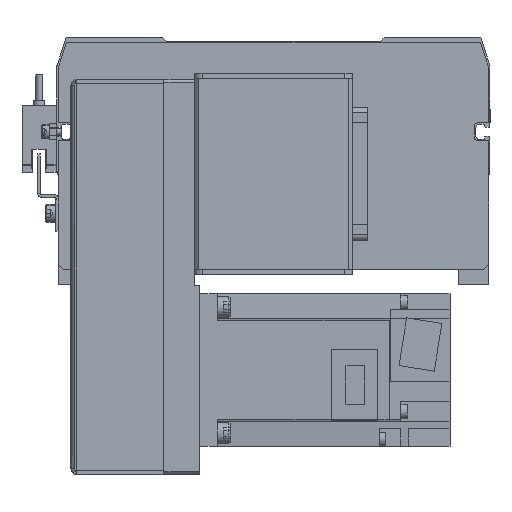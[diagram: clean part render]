
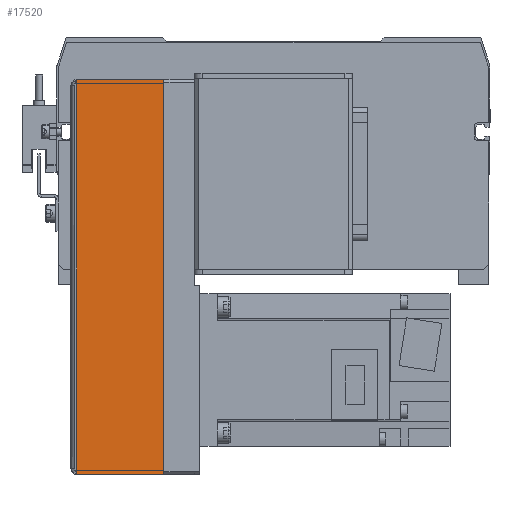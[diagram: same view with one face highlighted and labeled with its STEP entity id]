
A CAD part, front view. The second image highlights one B-rep face of the part: STEP entity #17520.
In plain terms, the highlighted planar face has unit normal (0, -1, 0) as drawn and (0, 1, 0) by its records, which use the part's own axes.
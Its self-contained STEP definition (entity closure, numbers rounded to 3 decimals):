
#320 = EDGE_CURVE ( 'NONE', #2009, #9775, #31977, .T. ) ;
#2009 = VERTEX_POINT ( 'NONE', #6453 ) ;
#2014 = ORIENTED_EDGE ( 'NONE', *, *, #17323, .F. ) ;
#3886 = CARTESIAN_POINT ( 'NONE',  ( 35., 59.837, -134.327 ) ) ;
#4024 = DIRECTION ( 'NONE',  ( 0., 0., 1. ) ) ;
#6453 = CARTESIAN_POINT ( 'NONE',  ( 0.737, 59.837, 20.673 ) ) ;
#7318 = DIRECTION ( 'NONE',  ( 0., 0., -1. ) ) ;
#7411 = EDGE_CURVE ( 'NONE', #23824, #9775, #14295, .T. ) ;
#8112 = VECTOR ( 'NONE', #36345, 1000. ) ;
#8495 = VECTOR ( 'NONE', #7318, 1000. ) ;
#9275 = ORIENTED_EDGE ( 'NONE', *, *, #29258, .F. ) ;
#9422 = ORIENTED_EDGE ( 'NONE', *, *, #320, .T. ) ;
#9775 = VERTEX_POINT ( 'NONE', #12246 ) ;
#11490 = FACE_OUTER_BOUND ( 'NONE', #12998, .T. ) ;
#12246 = CARTESIAN_POINT ( 'NONE',  ( 35., 59.837, 20.673 ) ) ;
#12998 = EDGE_LOOP ( 'NONE', ( #2014, #9422, #40772, #9275 ) ) ;
#14295 = LINE ( 'NONE', #3886, #27200 ) ;
#14467 = CARTESIAN_POINT ( 'NONE',  ( 0.737, 59.837, -134.327 ) ) ;
#14571 = DIRECTION ( 'NONE',  ( 0., -1., 0. ) ) ;
#15121 = VECTOR ( 'NONE', #24756, 1000. ) ;
#15709 = AXIS2_PLACEMENT_3D ( 'NONE', #36998, #14571, #39747 ) ;
#17323 = EDGE_CURVE ( 'NONE', #2009, #31495, #17872, .T. ) ;
#17520 = ADVANCED_FACE ( 'NONE', ( #11490 ), #17627, .F. ) ;
#17576 = CARTESIAN_POINT ( 'NONE',  ( 35., 59.837, -134.327 ) ) ;
#17627 = PLANE ( 'NONE',  #15709 ) ;
#17819 = CARTESIAN_POINT ( 'NONE',  ( 0.737, 59.837, 20.673 ) ) ;
#17872 = LINE ( 'NONE', #32047, #8495 ) ;
#23824 = VERTEX_POINT ( 'NONE', #17576 ) ;
#24756 = DIRECTION ( 'NONE',  ( 1., 0., 0. ) ) ;
#27200 = VECTOR ( 'NONE', #4024, 1000. ) ;
#27840 = CARTESIAN_POINT ( 'NONE',  ( 0.737, 59.837, -134.327 ) ) ;
#29258 = EDGE_CURVE ( 'NONE', #31495, #23824, #31880, .T. ) ;
#31495 = VERTEX_POINT ( 'NONE', #27840 ) ;
#31880 = LINE ( 'NONE', #14467, #8112 ) ;
#31977 = LINE ( 'NONE', #17819, #15121 ) ;
#32047 = CARTESIAN_POINT ( 'NONE',  ( 0.737, 59.837, -134.327 ) ) ;
#36345 = DIRECTION ( 'NONE',  ( 1., 0., 0. ) ) ;
#36998 = CARTESIAN_POINT ( 'NONE',  ( 0., 59.837, 0. ) ) ;
#39747 = DIRECTION ( 'NONE',  ( 1., 0., 0. ) ) ;
#40772 = ORIENTED_EDGE ( 'NONE', *, *, #7411, .F. ) ;
